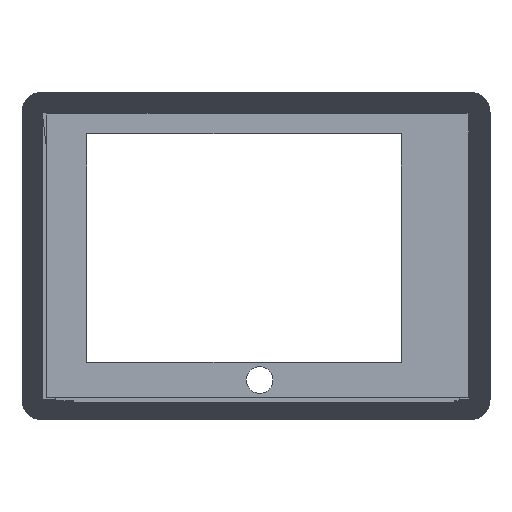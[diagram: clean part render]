
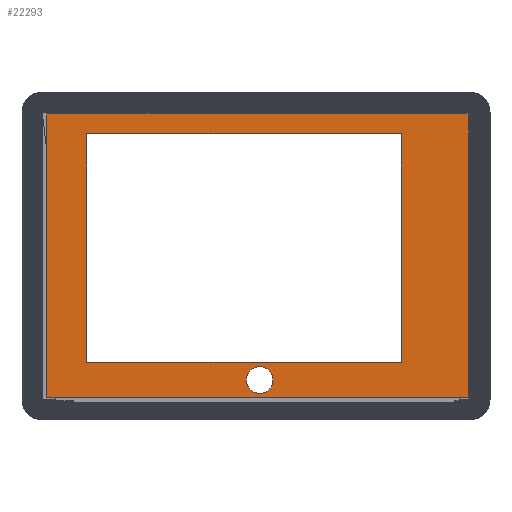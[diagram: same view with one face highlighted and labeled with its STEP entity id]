
A CAD part, front view. The second image highlights one B-rep face of the part: STEP entity #22293.
In plain terms, the highlighted planar face has unit normal (0, -1, 0).
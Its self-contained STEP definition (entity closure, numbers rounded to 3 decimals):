
#2351 = VERTEX_POINT('',#2352);
#2352 = CARTESIAN_POINT('',(-20.,-25.5,31.5));
#2358 = EDGE_CURVE('',#2351,#2359,#2361,.T.);
#2359 = VERTEX_POINT('',#2360);
#2360 = CARTESIAN_POINT('',(51.,-25.5,31.5));
#2361 = LINE('',#2362,#2363);
#2362 = CARTESIAN_POINT('',(-24.5,-25.5,31.5));
#2363 = VECTOR('',#2364,1.);
#2364 = DIRECTION('',(1.,0.,0.));
#2382 = EDGE_CURVE('',#2359,#2383,#2385,.T.);
#2383 = VERTEX_POINT('',#2384);
#2384 = CARTESIAN_POINT('',(51.,-25.5,-20.));
#2385 = LINE('',#2386,#2387);
#2386 = CARTESIAN_POINT('',(51.,-25.5,-24.));
#2387 = VECTOR('',#2388,1.);
#2388 = DIRECTION('',(0.,0.,-1.));
#2406 = VERTEX_POINT('',#2407);
#2407 = CARTESIAN_POINT('',(-20.,-25.5,-20.));
#2413 = EDGE_CURVE('',#2406,#2383,#2414,.T.);
#2414 = LINE('',#2415,#2416);
#2415 = CARTESIAN_POINT('',(-24.5,-25.5,-20.));
#2416 = VECTOR('',#2417,1.);
#2417 = DIRECTION('',(1.,0.,0.));
#2430 = EDGE_CURVE('',#2351,#2406,#2431,.T.);
#2431 = LINE('',#2432,#2433);
#2432 = CARTESIAN_POINT('',(-20.,-25.5,-24.));
#2433 = VECTOR('',#2434,1.);
#2434 = DIRECTION('',(0.,0.,-1.));
#2498 = VERTEX_POINT('',#2499);
#2499 = CARTESIAN_POINT('',(19.,-25.5,-27.));
#2505 = EDGE_CURVE('',#2498,#2498,#2506,.T.);
#2506 = CIRCLE('',#2507,3.);
#2507 = AXIS2_PLACEMENT_3D('',#2508,#2509,#2510);
#2508 = CARTESIAN_POINT('',(19.,-25.5,-24.));
#2509 = DIRECTION('',(0.,1.,0.));
#2510 = DIRECTION('',(0.,0.,-1.));
#22293 = ADVANCED_FACE('',(#22294,#22328,#22334),#22337,.F.);
#22294 = FACE_BOUND('',#22295,.F.);
#22295 = EDGE_LOOP('',(#22296,#22306,#22314,#22322));
#22296 = ORIENTED_EDGE('',*,*,#22297,.F.);
#22297 = EDGE_CURVE('',#22298,#22300,#22302,.T.);
#22298 = VERTEX_POINT('',#22299);
#22299 = CARTESIAN_POINT('',(-29.,-25.5,-28.));
#22300 = VERTEX_POINT('',#22301);
#22301 = CARTESIAN_POINT('',(66.,-25.5,-28.));
#22302 = LINE('',#22303,#22304);
#22303 = CARTESIAN_POINT('',(-29.,-25.5,-28.));
#22304 = VECTOR('',#22305,1.);
#22305 = DIRECTION('',(1.,0.,0.));
#22306 = ORIENTED_EDGE('',*,*,#22307,.T.);
#22307 = EDGE_CURVE('',#22298,#22308,#22310,.T.);
#22308 = VERTEX_POINT('',#22309);
#22309 = CARTESIAN_POINT('',(-29.,-25.5,36.));
#22310 = LINE('',#22311,#22312);
#22311 = CARTESIAN_POINT('',(-29.,-25.5,-28.));
#22312 = VECTOR('',#22313,1.);
#22313 = DIRECTION('',(0.,0.,1.));
#22314 = ORIENTED_EDGE('',*,*,#22315,.T.);
#22315 = EDGE_CURVE('',#22308,#22316,#22318,.T.);
#22316 = VERTEX_POINT('',#22317);
#22317 = CARTESIAN_POINT('',(66.,-25.5,36.));
#22318 = LINE('',#22319,#22320);
#22319 = CARTESIAN_POINT('',(-29.,-25.5,36.));
#22320 = VECTOR('',#22321,1.);
#22321 = DIRECTION('',(1.,0.,0.));
#22322 = ORIENTED_EDGE('',*,*,#22323,.F.);
#22323 = EDGE_CURVE('',#22300,#22316,#22324,.T.);
#22324 = LINE('',#22325,#22326);
#22325 = CARTESIAN_POINT('',(66.,-25.5,-28.));
#22326 = VECTOR('',#22327,1.);
#22327 = DIRECTION('',(0.,0.,1.));
#22328 = FACE_BOUND('',#22329,.F.);
#22329 = EDGE_LOOP('',(#22330,#22331,#22332,#22333));
#22330 = ORIENTED_EDGE('',*,*,#2358,.F.);
#22331 = ORIENTED_EDGE('',*,*,#2430,.T.);
#22332 = ORIENTED_EDGE('',*,*,#2413,.T.);
#22333 = ORIENTED_EDGE('',*,*,#2382,.F.);
#22334 = FACE_BOUND('',#22335,.F.);
#22335 = EDGE_LOOP('',(#22336));
#22336 = ORIENTED_EDGE('',*,*,#2505,.F.);
#22337 = PLANE('',#22338);
#22338 = AXIS2_PLACEMENT_3D('',#22339,#22340,#22341);
#22339 = CARTESIAN_POINT('',(-29.,-25.5,-28.));
#22340 = DIRECTION('',(0.,1.,0.));
#22341 = DIRECTION('',(0.,0.,1.));
